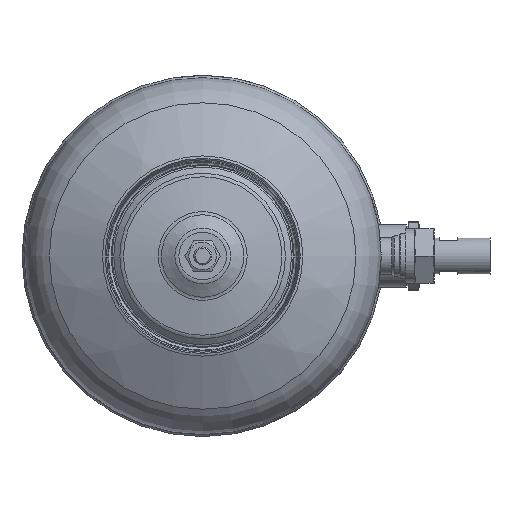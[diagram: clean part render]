
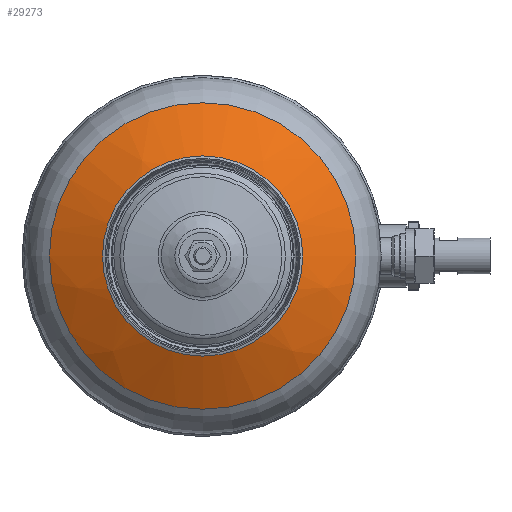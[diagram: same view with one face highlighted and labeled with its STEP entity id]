
A CAD part, front view. The second image highlights one B-rep face of the part: STEP entity #29273.
In plain terms, the highlighted spherical face has radius 159 mm.
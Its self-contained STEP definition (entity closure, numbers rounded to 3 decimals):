
#2012=SPHERICAL_SURFACE('',#31344,159.);
#2108=FACE_BOUND('',#5918,.T.);
#2941=CIRCLE('',#31194,53.172);
#3007=CIRCLE('',#31345,85.047);
#4081=FACE_OUTER_BOUND('',#5917,.T.);
#5917=EDGE_LOOP('',(#22074));
#5918=EDGE_LOOP('',(#22075));
#12274=VERTEX_POINT('',#49251);
#12380=VERTEX_POINT('',#49710);
#15786=EDGE_CURVE('',#12274,#12274,#2941,.T.);
#15934=EDGE_CURVE('',#12380,#12380,#3007,.T.);
#22074=ORIENTED_EDGE('',*,*,#15934,.T.);
#22075=ORIENTED_EDGE('',*,*,#15786,.T.);
#29273=ADVANCED_FACE('',(#4081,#2108),#2012,.T.);
#31194=AXIS2_PLACEMENT_3D('',#49252,#35046,#35047);
#31344=AXIS2_PLACEMENT_3D('',#49709,#35412,#35413);
#31345=AXIS2_PLACEMENT_3D('',#49711,#35414,#35415);
#35046=DIRECTION('center_axis',(0.,1.,0.));
#35047=DIRECTION('ref_axis',(0.,0.,-1.));
#35412=DIRECTION('center_axis',(0.,0.,-1.));
#35413=DIRECTION('ref_axis',(1.,0.,0.));
#35414=DIRECTION('center_axis',(0.,-1.,0.));
#35415=DIRECTION('ref_axis',(-1.,0.,0.));
#49251=CARTESIAN_POINT('',(53.172,-158.523,0.));
#49252=CARTESIAN_POINT('Origin',(0.,-158.523,0.));
#49709=CARTESIAN_POINT('Origin',(0.,-8.678,
0.));
#49710=CARTESIAN_POINT('',(-85.047,-143.021,0.));
#49711=CARTESIAN_POINT('Origin',(0.,-143.021,
0.));
